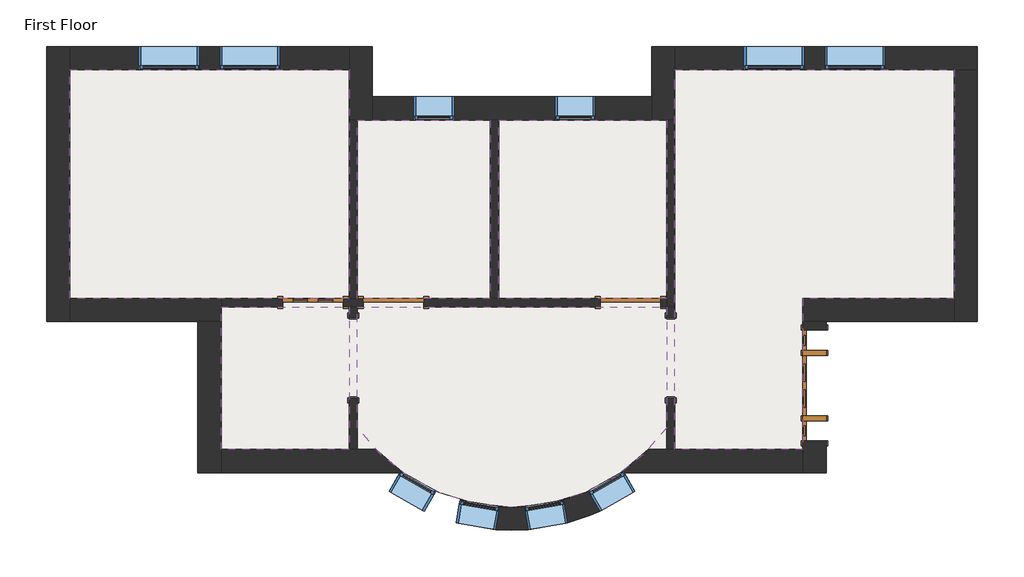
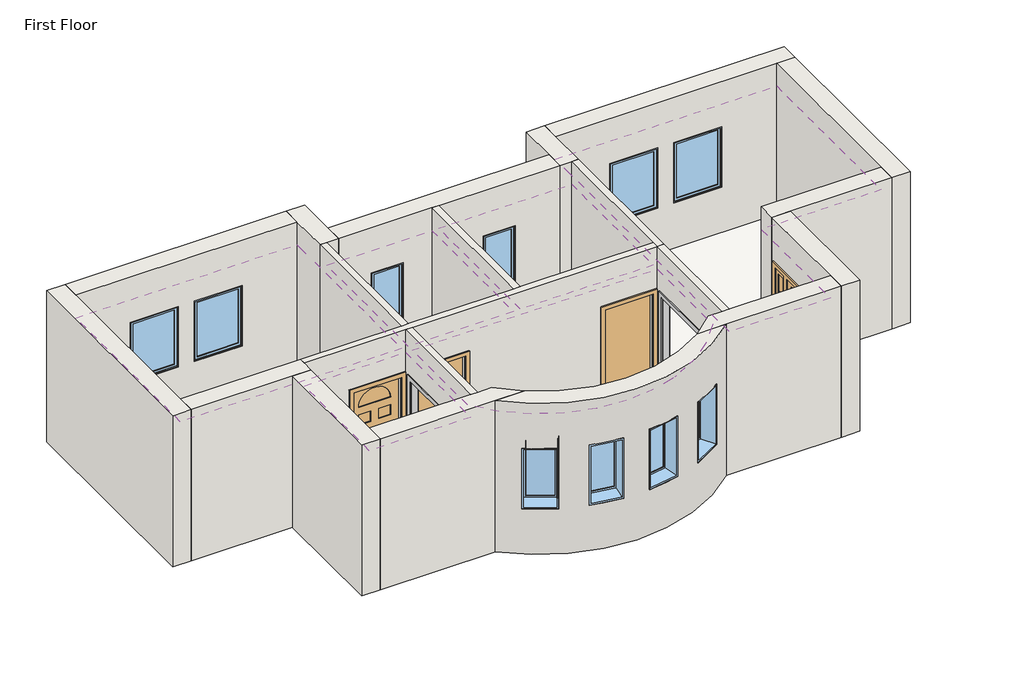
# One storey: 20 walls, 10 windows, 6 coverings, 4 doors, 2 proxies, 1 slab.
"""IFC4 building model written with IfcOpenShell, lengths in millimetres."""

from ifc_helpers import new_model, si_unit, point, frame, frame_2d, origin, origin_with_axes, place, context, project, spatial, polyline, circle_curve, trimmed, segment, composite_curve, outline, extrude, faceted_brep, transform, mapped, element, save
from ifc_brep_helpers import plane_surface, cylinder_surface, revolved_surface, advanced_brep
from components import proxy_f44482cc, door_2e3b4da2, door_a1797ceb, door_a3eb833a, door_dba5aa2e, window_60baf983, window_ed80354a, window_15c49d37

model = new_model("IFC4")

# Units and contexts
model_context = context("Model", 3, world=origin())
ifc_project = project(units=[si_unit("LENGTHUNIT", "METRE", prefix="MILLI")], contexts=[model_context])

# Site, building, storey
site = spatial("IfcSite", under=ifc_project)
building = spatial("IfcBuilding", under=site)
storey = spatial("IfcBuildingStorey", under=building, Name="First Floor", Elevation=0.0)

# Proxies
placement = place(None, origin())
proxy_shape = proxy_f44482cc(model_context)
element("IfcBuildingElementProxy", 1, Name="Opening-Cased : 48\" x 84\"", ObjectType="Opening-Cased : 48\" x 84\"", at=placement, inside=storey, context=model_context, shape_type="MappedRepresentation", body=[
    mapped(proxy_shape, transform((-732.7404149, 8023.3246014, 0.0), x_axis=(0.0, -1.0, 0.0), y_axis=(1.0, 0.0, 0.0), z_axis=(0.0, 0.0, 1.0))),
])
element("IfcBuildingElementProxy", 2, Name="Opening-Cased : 48\" x 84\"", ObjectType="Opening-Cased : 48\" x 84\"", at=placement, inside=storey, context=model_context, shape_type="MappedRepresentation", body=[
    mapped(proxy_shape, transform((4064.6845851, 8039.7019148, 0.0), x_axis=(0.0, 1.0, 0.0), y_axis=(-1.0, 0.0, 0.0), z_axis=(0.0, 0.0, 1.0))),
])

# Coverings
element("IfcCovering", 3, ObjectType="GWB on Mtl. Stud", at=placement, inside=storey, context=model_context, shape_type="SweptSolid", body=[
    extrude(outline(polyline([(-2906.0279149, 8933.2132581), (-5015.8154149, 8933.2132581), (-5015.8154149, 12390.7882581), (-796.2404149, 12390.7882581), (-796.2404149, 11805.0007581), (-796.2404149, 8933.2132581), (-2906.0279149, 8933.2132581)])), frame((0.0, 0.0, 2590.8), z_axis=(0.0, 0.0, 1.0), x_axis=(1.0, 0.0, 0.0)), (0.0, 0.0, 1.0), 107.95),
])
element("IfcCovering", 4, ObjectType="GWB on Mtl. Stud", at=placement, inside=storey, context=model_context, shape_type="SweptSolid", body=[
    extrude(outline(polyline([(-669.2404149, 8933.2132581), (-669.2404149, 11628.7882581), (1337.3595851, 11628.7882581), (1337.3595851, 8933.2132581), (-669.2404149, 8933.2132581)])), frame((0.0, 0.0, 2590.8), z_axis=(0.0, 0.0, 1.0), x_axis=(1.0, 0.0, 0.0)), (0.0, 0.0, 1.0), 107.95),
])
element("IfcCovering", 5, ObjectType="GWB on Mtl. Stud", at=placement, inside=storey, context=model_context, shape_type="SweptSolid", body=[
    extrude(outline(polyline([(1464.3595851, 11628.7882581), (4001.1845851, 11628.7882581), (4001.1845851, 8933.2132581), (1464.3595851, 8933.2132581), (1464.3595851, 11628.7882581)])), frame((0.0, 0.0, 2590.8), z_axis=(0.0, 0.0, 1.0), x_axis=(1.0, 0.0, 0.0)), (0.0, 0.0, 1.0), 107.95),
])
element("IfcCovering", 6, ObjectType="GWB on Mtl. Stud", at=placement, inside=storey, context=model_context, shape_type="SweptSolid", body=[
    extrude(outline(polyline([(8347.7595851, 12390.7882581), (8347.7595851, 8933.2132581), (6061.7595851, 8933.2132581), (6061.7595851, 6647.2132581), (4128.1845851, 6647.2132581), (4128.1845851, 8869.7132581), (4128.1845851, 11805.0007581), (4128.1845851, 12390.7882581), (8347.7595851, 12390.7882581)])), frame((0.0, 0.0, 2590.8), z_axis=(0.0, 0.0, 1.0), x_axis=(1.0, 0.0, 0.0)), (0.0, 0.0, 1.0), 107.95),
])
element("IfcCovering", 7, ObjectType="GWB on Mtl. Stud", at=placement, inside=storey, context=model_context, shape_type="SweptSolid", body=[
    extrude(outline(composite_curve([segment(trimmed(circle_curve(frame_2d((1665.9720851, 8647.7081431)), 2871.7875), [point((4001.1845851, 6976.19804))], [point((-669.2404149, 6976.19804))], False, "CARTESIAN"), True, "CONTINUOUS"), segment(polyline([(-669.2404149, 6976.19804), (-669.2404149, 8806.2132581), (4001.1845851, 8806.2132581), (4001.1845851, 6976.19804)]), True, "CONTINUOUS")], self_intersect=False)), frame((0.0, 0.0, 2590.8), z_axis=(0.0, 0.0, 1.0), x_axis=(1.0, 0.0, 0.0)), (0.0, 0.0, 1.0), 107.95),
])
element("IfcCovering", 8, ObjectType="GWB on Mtl. Stud", at=placement, inside=storey, context=model_context, shape_type="SweptSolid", body=[
    extrude(outline(polyline([(-796.2404149, 6647.2132581), (-2729.8154149, 6647.2132581), (-2729.8154149, 8806.2132581), (-796.2404149, 8806.2132581), (-796.2404149, 6647.2132581)])), frame((0.0, 0.0, 2590.8), z_axis=(0.0, 0.0, 1.0), x_axis=(1.0, 0.0, 0.0)), (0.0, 0.0, 1.0), 107.95),
])

# Doors
door_shape = door_2e3b4da2(model_context)
element("IfcDoor", 9, ObjectType="Single-Decorative 2 : 36\" x 84\"", at=placement, inside=storey, context=model_context, shape_type="MappedRepresentation", body=[
    mapped(door_shape, transform((-1342.3404149, 8869.7132581, 0.0), x_axis=(1.0, 0.0, 0.0), y_axis=(0.0, 1.0, 0.0), z_axis=(0.0, 0.0, 1.0))),
])
door_2_shape = door_a1797ceb(model_context)
element("IfcDoor", 10, ObjectType="Single-Flush : 36\" x 84\"", at=placement, inside=storey, context=model_context, shape_type="MappedRepresentation", body=[
    mapped(door_2_shape, transform((3455.0845851, 8869.7132581, 0.0), x_axis=(1.0, 0.0, 0.0), y_axis=(0.0, 1.0, 0.0), z_axis=(0.0, 0.0, 1.0))),
])
door_3_shape = door_a3eb833a(model_context)
element("IfcDoor", 11, ObjectType="Single-Flush : 36\" x 84\"", at=placement, inside=storey, context=model_context, shape_type="MappedRepresentation", body=[
    mapped(door_3_shape, transform((-123.1404149, 8869.7132581, 0.0), x_axis=(-1.0, 0.0, 0.0), y_axis=(0.0, -1.0, 0.0), z_axis=(0.0, 0.0, 1.0))),
])
door_4_shape = door_dba5aa2e(model_context)
element("IfcDoor", 12, ObjectType="Single-Raised Panel with Sidelights : 36\" x 84\"", at=placement, inside=storey, context=model_context, shape_type="MappedRepresentation", body=[
    mapped(door_4_shape, transform((6237.9720851, 7614.0007581, 0.0), x_axis=(0.0, -1.0, 0.0), y_axis=(1.0, 0.0, 0.0), z_axis=(0.0, 0.0, 1.0))),
])

# Slab
element("IfcSlab", 13, ObjectType="LW Concrete on Metal Deck", at=placement, inside=storey, context=model_context, shape_type="SweptSolid", body=[
    extrude(outline(composite_curve([segment(polyline([(-783.5404149, 12403.4882581), (-783.5404149, 11641.4882581), (4115.4845851, 11641.4882581), (4115.4845851, 12403.4882581), (8360.4595851, 12403.4882581), (8360.4595851, 8920.5132581), (6074.4595851, 8920.5132581), (6074.4595851, 6634.5132581), (3713.949087, 6634.5132581)]), True, "CONTINUOUS"), segment(trimmed(circle_curve(frame_2d((1665.9720851, 8647.7081431)), 2871.7875), [point((3713.949087, 6634.5132581))], [point((-382.0049167, 6634.5132581))], False, "CARTESIAN"), True, "CONTINUOUS"), segment(polyline([(-382.0049167, 6634.5132581), (-2742.5154149, 6634.5132581), (-2742.5154149, 8920.5132581), (-5028.5154149, 8920.5132581), (-5028.5154149, 12403.4882581), (-783.5404149, 12403.4882581)]), True, "CONTINUOUS")], self_intersect=False)), frame((0.0, 0.0, -104.775), z_axis=(0.0, 0.0, 1.0), x_axis=(1.0, 0.0, 0.0)), (0.0, 0.0, 1.0), 104.775),
])

# Walls
element("IfcWall", 14, ObjectType="Exterior - Brick on Mtl. Stud", at=placement, inside=storey, context=model_context, shape_type="Brep", body=[
    faceted_brep([(8347.7595851, 12390.7882581, 0.0), (8347.7595851, 8933.2132581, 0.0), (8347.7595851, 8580.7882581, 0.0), (8347.7595851, 8580.7882581, 3048.0), (8347.7595851, 8933.2132581, 3048.0), (8347.7595851, 12390.7882581, 3048.0), (8700.1845851, 12390.7882581, 0.0), (8700.1845851, 12390.7882581, 3048.0), (8700.1845851, 8580.7882581, 3048.0), (8700.1845851, 8580.7882581, 0.0)], [[[0, 1, 2, 3, 4, 5]], [[6, 7, 8, 9]], [[2, 1, 0, 6, 9]], [[5, 4, 3, 8, 7]], [[3, 2, 9, 8]], [[0, 5, 7, 6]]]),
])
element("IfcWall", 15, ObjectType="Exterior - Brick on Mtl. Stud", at=placement, inside=storey, context=model_context, shape_type="Brep", body=[
    faceted_brep([(8347.7595851, 8933.2132581, 0.0), (6061.7595851, 8933.2132581, 0.0), (6061.7595851, 8933.2132581, 3048.0), (8347.7595851, 8933.2132581, 3048.0), (8347.7595851, 8580.7882581, 0.0), (8347.7595851, 8580.7882581, 3048.0), (6414.1845851, 8580.7882581, 3048.0), (6061.7595851, 8580.7882581, 3048.0), (6061.7595851, 8580.7882581, 0.0), (6414.1845851, 8580.7882581, 0.0)], [[[0, 1, 2, 3]], [[4, 5, 6, 7, 8, 9]], [[1, 0, 4, 9, 8]], [[3, 2, 7, 6, 5]], [[2, 1, 8, 7]], [[0, 3, 5, 4]]]),
])
element("IfcWall", 16, ObjectType="Exterior - Brick on Mtl. Stud", at=placement, inside=storey, context=model_context, shape_type="Brep", body=[
    faceted_brep([(6061.7595851, 6775.8007581, 2133.6), (6061.7595851, 6775.8007581, 0.0), (6061.7595851, 6647.2132581, 0.0), (6061.7595851, 6294.7882581, 0.0), (6061.7595851, 6294.7882581, 3048.0), (6061.7595851, 6647.2132581, 3048.0), (6061.7595851, 8580.7882581, 3048.0), (6061.7595851, 8580.7882581, 0.0), (6061.7595851, 8452.2007581, 0.0), (6061.7595851, 8452.2007581, 2133.6), (6414.1845851, 6294.7882581, 0.0), (6414.1845851, 6775.8007581, 0.0), (6414.1845851, 6775.8007581, 2133.6), (6414.1845851, 8452.2007581, 2133.6), (6414.1845851, 8452.2007581, 0.0), (6414.1845851, 8580.7882581, 0.0), (6414.1845851, 8580.7882581, 3048.0), (6414.1845851, 6294.7882581, 3048.0)], [[[0, 1, 2, 3, 4, 5, 6, 7, 8, 9]], [[10, 11, 12, 13, 14, 15, 16, 17]], [[3, 2, 1, 11, 10]], [[8, 7, 15, 14]], [[6, 5, 4, 17, 16]], [[4, 3, 10, 17]], [[7, 6, 16, 15]], [[12, 11, 1, 0]], [[13, 12, 0, 9]], [[14, 13, 9, 8]]]),
])
element("IfcWall", 17, ObjectType="Exterior - Brick on Mtl. Stud", at=placement, inside=storey, context=model_context, shape_type="AdvancedBrep", body=[
    advanced_brep(
    [(6061.7595851, 6647.2132581, 0.0), (4128.1845851, 6647.2132581, 0.0), (4001.1845851, 6647.2132581, 0.0), (3726.3564328, 6647.2132581, 0.0), (3726.3564328, 6647.2132581, 3048.0), (4001.1845851, 6647.2132581, 3048.0), (4128.1845851, 6647.2132581, 3048.0), (6061.7595851, 6647.2132581, 3048.0), (3312.4627349, 6294.7882581, 0.0), (3870.3573191, 6294.7882581, 0.0), (6061.7595851, 6294.7882581, 0.0), (6061.7595851, 6294.7882581, 3048.0), (3870.3573191, 6294.7882581, 3048.0), (3312.4627349, 6294.7882581, 3048.0), (3312.4627349, 6294.7882581, 2133.6), (3361.7509829, 6294.7882581, 2133.6), (3361.7509829, 6294.7882581, 914.4), (3312.4627349, 6294.7882581, 914.4), (3320.3742367, 6300.3443098, 914.4), (3320.3742367, 6300.3443098, 2133.6), (3349.1702511, 6316.8014694, 914.4), (3349.1702511, 6316.8014694, 2133.6)],
    [
        (0, 1),
        (1, 2),
        (2, 3),
        (3, 4),
        (4, 5),
        (5, 6),
        (6, 7),
        (7, 0),
        (8, 9),
        (9, 10),
        (10, 11),
        (11, 12),
        (12, 13),
        (13, 14),
        (14, 15),
        (15, 16),
        (16, 17),
        (17, 8),
        (0, 10),
        (8, 3, circle_curve(frame((1665.9720851, 8647.7081431, 0.0), z_axis=(0.0, 0.0, 1.0), x_axis=(1.0, 0.0, 0.0)), 2871.7875)),
        (4, 13, circle_curve(frame((1665.9720851, 8647.7081431, 3048.0), z_axis=(0.0, 0.0, -1.0), x_axis=(1.0, 0.0, 0.0)), 2871.7875)),
        (11, 7),
        (17, 18, circle_curve(frame((1665.9720851, 8647.7081431, 914.4), z_axis=(0.0, 0.0, 1.0), x_axis=(1.0, 0.0, 0.0)), 2871.7875)),
        (18, 19),
        (19, 14, circle_curve(frame((1665.9720851, 8647.7081431, 2133.6), z_axis=(0.0, 0.0, -1.0), x_axis=(1.0, 0.0, 0.0)), 2871.7875)),
        (20, 21),
        (21, 19),
        (18, 20),
        (16, 20),
        (15, 21),
    ],
    [
        plane_surface(frame((6237.9720851, 6647.2132581, 0.0), z_axis=(0.0, 1.0, 0.0), x_axis=(-1.0, 0.0, 0.0))),
        plane_surface(frame((6237.9720851, 6294.7882581, 0.0), z_axis=(0.0, -1.0, 0.0), x_axis=(1.0, 0.0, 0.0))),
        plane_surface(frame((6237.9720851, 6647.2132581, 0.0), z_axis=(0.0, 0.0, -1.0), x_axis=(0.0, -1.0, 0.0))),
        plane_surface(frame((3799.5720851, 6647.2132581, 3048.0), z_axis=(0.0, 0.0, 1.0), x_axis=(0.0, -1.0, 0.0))),
        revolved_surface(polyline([(4537.7595851, 8647.7081431, 0.0), (4537.7595851, 8647.7081431, 3048.0)]), (1665.9720851, 8647.7081431, 0.0), (0.0, 0.0, -1.0)),
        plane_surface(frame((6061.7595851, 8757.0007581, 0.0), z_axis=(1.0, 0.0, 0.0), x_axis=(0.0, -1.0, 0.0))),
        plane_surface(frame((2819.9073972, 6014.3233852, 2133.6), z_axis=(0.49619108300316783, -0.8682133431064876, 0.0), x_axis=(0.0, 0.0, 1.0))),
        plane_surface(frame((2993.993531, 5709.7151216, 914.4), z_axis=(0.0, 0.0, 1.0000000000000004), x_axis=(-0.4961910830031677, 0.8682133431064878, 0.0))),
        plane_surface(frame((3523.2563849, 6012.1932058, 914.4), z_axis=(-0.8682133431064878, -0.4961910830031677, 0.0), x_axis=(-0.4961910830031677, 0.8682133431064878, 0.0))),
        plane_surface(frame((3523.2563849, 6012.1932058, 2133.6), z_axis=(0.0, 0.0, -1.0000000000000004), x_axis=(-0.4961910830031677, 0.8682133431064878, 0.0))),
    ],
    [
        (0, [[1, 2, 3, 4, 5, 6, 7, 8]]),
        (1, [[9, 10, 11, 12, 13, 14, 15, 16, 17, 18]]),
        (2, [[-3, -2, -1, 19, -10, -9, 20]]),
        (3, [[-7, -6, -5, 21, -13, -12, 22]]),
        (4, [[-4, -20, -18, 23, 24, 25, -14, -21]]),
        (5, [[-8, -22, -11, -19]]),
        (6, [[26, 27, -24, 28]]),
        (7, [[-28, -23, -17, 29]]),
        (8, [[-26, -29, -16, 30]]),
        (9, [[-27, -30, -15, -25]]),
    ],
),
])
element("IfcWall", 18, ObjectType="Exterior - Brick on Mtl. Stud", at=placement, inside=storey, context=model_context, shape_type="Brep", body=[
    faceted_brep([(-5368.2404149, 12743.2132581, 0.0), (-5368.2404149, 8580.7882581, 0.0), (-5368.2404149, 8580.7882581, 3048.0), (-5368.2404149, 12743.2132581, 3048.0), (-5015.8154149, 12743.2132581, 0.0), (-5015.8154149, 12743.2132581, 3048.0), (-5015.8154149, 12390.7882581, 3048.0), (-5015.8154149, 8933.2132581, 3048.0), (-5015.8154149, 8580.7882581, 3048.0), (-5015.8154149, 8580.7882581, 0.0), (-5015.8154149, 8933.2132581, 0.0), (-5015.8154149, 12390.7882581, 0.0)], [[[0, 1, 2, 3]], [[4, 5, 6, 7, 8, 9, 10, 11]], [[1, 0, 4, 11, 10, 9]], [[3, 2, 8, 7, 6, 5]], [[2, 1, 9, 8]], [[0, 3, 5, 4]]]),
])
element("IfcWall", 19, ObjectType="Exterior - Brick on Mtl. Stud", at=placement, inside=storey, context=model_context, shape_type="Brep", body=[
    faceted_brep([(-5015.8154149, 8580.7882581, 0.0), (-3082.2404149, 8580.7882581, 0.0), (-2729.8154149, 8580.7882581, 0.0), (-2729.8154149, 8580.7882581, 3048.0), (-3082.2404149, 8580.7882581, 3048.0), (-5015.8154149, 8580.7882581, 3048.0), (-5015.8154149, 8933.2132581, 0.0), (-5015.8154149, 8933.2132581, 3048.0), (-2729.8154149, 8933.2132581, 3048.0), (-2729.8154149, 8933.2132581, 0.0), (-2729.8154149, 8806.2132581, 0.0), (-2729.8154149, 8806.2132581, 3048.0)], [[[0, 1, 2, 3, 4, 5]], [[6, 7, 8, 9]], [[2, 1, 0, 6, 9, 10]], [[5, 4, 3, 11, 8, 7]], [[3, 2, 10, 9, 8, 11]], [[0, 5, 7, 6]]]),
])
element("IfcWall", 20, ObjectType="Exterior - Brick on Mtl. Stud", at=placement, inside=storey, context=model_context, shape_type="Brep", body=[
    faceted_brep([(-3082.2404149, 8580.7882581, 0.0), (-3082.2404149, 6294.7882581, 0.0), (-3082.2404149, 6294.7882581, 3048.0), (-3082.2404149, 8580.7882581, 3048.0), (-2729.8154149, 8580.7882581, 0.0), (-2729.8154149, 8580.7882581, 3048.0), (-2729.8154149, 6647.2132581, 3048.0), (-2729.8154149, 6294.7882581, 3048.0), (-2729.8154149, 6294.7882581, 0.0), (-2729.8154149, 6647.2132581, 0.0)], [[[0, 1, 2, 3]], [[4, 5, 6, 7, 8, 9]], [[1, 0, 4, 9, 8]], [[3, 2, 7, 6, 5]], [[2, 1, 8, 7]], [[0, 3, 5, 4]]]),
])
element("IfcWall", 21, ObjectType="Exterior - Brick on Mtl. Stud", at=placement, inside=storey, context=model_context, shape_type="AdvancedBrep", body=[
    advanced_brep(
    [(-2729.8154149, 6294.7882581, 0.0), (-538.4131488, 6294.7882581, 0.0), (19.4814354, 6294.7882581, 0.0), (19.4814354, 6294.7882581, 914.4), (-29.8068126, 6294.7882581, 914.4), (-29.8068126, 6294.7882581, 2133.6), (19.4814354, 6294.7882581, 2133.6), (19.4814354, 6294.7882581, 3048.0), (-538.4131488, 6294.7882581, 3048.0), (-2729.8154149, 6294.7882581, 3048.0), (-394.4122625, 6647.2132581, 0.0), (-669.2404149, 6647.2132581, 0.0), (-796.2404149, 6647.2132581, 0.0), (-2729.8154149, 6647.2132581, 0.0), (-2729.8154149, 6647.2132581, 3048.0), (-796.2404149, 6647.2132581, 3048.0), (-669.2404149, 6647.2132581, 3048.0), (-394.4122625, 6647.2132581, 3048.0), (11.5699336, 6300.3443098, 2133.6), (11.5699336, 6300.3443098, 914.4), (-17.2260808, 6316.8014694, 2133.6), (-17.2260808, 6316.8014694, 914.4)],
    [
        (0, 1),
        (1, 2),
        (2, 3),
        (3, 4),
        (4, 5),
        (5, 6),
        (6, 7),
        (7, 8),
        (8, 9),
        (9, 0),
        (10, 11),
        (11, 12),
        (12, 13),
        (13, 14),
        (14, 15),
        (15, 16),
        (16, 17),
        (17, 10),
        (0, 13),
        (10, 2, circle_curve(frame((1665.9720851, 8647.7081431, 0.0), z_axis=(0.0, 0.0, 1.0), x_axis=(1.0, 0.0, 0.0)), 2871.7875)),
        (7, 17, circle_curve(frame((1665.9720851, 8647.7081431, 3048.0), z_axis=(0.0, 0.0, -1.0), x_axis=(1.0, 0.0, 0.0)), 2871.7875)),
        (14, 9),
        (6, 18, circle_curve(frame((1665.9720851, 8647.7081431, 2133.6), z_axis=(0.0, 0.0, -1.0), x_axis=(1.0, 0.0, 0.0)), 2871.7875)),
        (18, 19),
        (19, 3, circle_curve(frame((1665.9720851, 8647.7081431, 914.4), z_axis=(0.0, 0.0, 1.0), x_axis=(1.0, 0.0, 0.0)), 2871.7875)),
        (20, 21),
        (21, 19),
        (18, 20),
        (21, 4),
        (20, 5),
    ],
    [
        plane_surface(frame((-2906.0279149, 6294.7882581, 0.0), z_axis=(0.0, -1.0, 0.0), x_axis=(1.0, 0.0, 0.0))),
        plane_surface(frame((-2906.0279149, 6647.2132581, 0.0), z_axis=(0.0, 1.0, 0.0), x_axis=(-1.0, 0.0, 0.0))),
        plane_surface(frame((-2906.0279149, 6294.7882581, 0.0), z_axis=(0.0, 0.0, -1.0), x_axis=(0.0, 1.0, 0.0))),
        plane_surface(frame((-467.6279149, 6294.7882581, 3048.0), z_axis=(0.0, 0.0, 1.0), x_axis=(0.0, 1.0, 0.0))),
        revolved_surface(polyline([(4537.7595851, 8647.7081431, 0.0), (4537.7595851, 8647.7081431, 3048.0)]), (1665.9720851, 8647.7081431, 0.0), (0.0, 0.0, -1.0)),
        plane_surface(frame((-2729.8154149, 8757.0007581, 0.0), z_axis=(-1.0, 0.0, 0.0), x_axis=(0.0, 1.0, 0.0))),
        plane_surface(frame((512.0367731, 6014.3233852, 2133.6), z_axis=(-0.4961910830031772, -0.8682133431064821, 0.0), x_axis=(0.0, 0.0, -1.0))),
        plane_surface(frame((512.0367731, 6014.3233852, 914.4), z_axis=(0.0, 0.0, 1.0000000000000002), x_axis=(-0.49619108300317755, -0.8682133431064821, 0.0))),
        plane_surface(frame((-17.2260808, 6316.8014694, 914.4), z_axis=(0.8682133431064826, -0.4961910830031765, 0.0), x_axis=(-0.4961910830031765, -0.8682133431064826, 0.0))),
        plane_surface(frame((-17.2260808, 6316.8014694, 2133.6), z_axis=(0.0, 0.0, -1.0), x_axis=(-0.4961910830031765, -0.8682133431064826, 0.0))),
    ],
    [
        (0, [[1, 2, 3, 4, 5, 6, 7, 8, 9, 10]]),
        (1, [[11, 12, 13, 14, 15, 16, 17, 18]]),
        (2, [[-2, -1, 19, -13, -12, -11, 20]]),
        (3, [[-9, -8, 21, -17, -16, -15, 22]]),
        (4, [[-20, -18, -21, -7, 23, 24, 25, -3]]),
        (5, [[-10, -22, -14, -19]]),
        (6, [[26, 27, -24, 28]]),
        (7, [[-27, 29, -4, -25]]),
        (8, [[-26, 30, -5, -29]]),
        (9, [[-28, -23, -6, -30]]),
    ],
),
])
element("IfcWall", 22, ObjectType="Exterior - Brick on Mtl. Stud", at=placement, inside=storey, context=model_context, shape_type="SweptSolid", body=[
    extrude(outline(polyline([(0.0, -5015.8154149), (0.0, -796.2404149), (3048.0, -796.2404149), (3048.0, -5015.8154149), (0.0, -5015.8154149)]), holes=[polyline([(2133.6, -3972.8279149), (2133.6, -3058.4279149), (914.4, -3058.4279149), (914.4, -3972.8279149), (2133.6, -3972.8279149)]), polyline([(2133.6, -2753.6279149), (2133.6, -1839.2279149), (914.4, -1839.2279149), (914.4, -2753.6279149), (2133.6, -2753.6279149)])]), frame((0.0, 12390.7882581, 0.0), z_axis=(0.0, 1.0, 0.0), x_axis=(0.0, 0.0, 1.0)), (0.0, 0.0, 1.0), 352.425),
])
element("IfcWall", 23, ObjectType="Exterior - Brick on Mtl. Stud", at=placement, inside=storey, context=model_context, shape_type="Brep", body=[
    faceted_brep([(-796.2404149, 12743.2132581, 0.0), (-796.2404149, 12390.7882581, 0.0), (-796.2404149, 11628.7882581, 0.0), (-796.2404149, 11628.7882581, 3048.0), (-796.2404149, 12390.7882581, 3048.0), (-796.2404149, 12743.2132581, 3048.0), (-443.8154149, 12743.2132581, 0.0), (-443.8154149, 12743.2132581, 3048.0), (-443.8154149, 11981.2132581, 3048.0), (-443.8154149, 11628.7882581, 3048.0), (-443.8154149, 11628.7882581, 0.0), (-443.8154149, 11981.2132581, 0.0), (-669.2404149, 11628.7882581, 0.0), (-669.2404149, 11628.7882581, 3048.0)], [[[0, 1, 2, 3, 4, 5]], [[6, 7, 8, 9, 10, 11]], [[2, 1, 0, 6, 11, 10, 12]], [[5, 4, 3, 13, 9, 8, 7]], [[0, 5, 7, 6]], [[3, 2, 12, 10, 9, 13]]]),
])
element("IfcWall", 24, ObjectType="Exterior - Brick on Mtl. Stud", at=placement, inside=storey, context=model_context, shape_type="Brep", body=[
    faceted_brep([(-443.8154149, 11628.7882581, 0.0), (1337.3595851, 11628.7882581, 0.0), (1464.3595851, 11628.7882581, 0.0), (3775.7595851, 11628.7882581, 0.0), (3775.7595851, 11628.7882581, 3048.0), (1464.3595851, 11628.7882581, 3048.0), (1337.3595851, 11628.7882581, 3048.0), (-443.8154149, 11628.7882581, 3048.0), (2315.2595851, 11628.7882581, 2133.6), (2924.8595851, 11628.7882581, 2133.6), (2924.8595851, 11628.7882581, 914.4), (2315.2595851, 11628.7882581, 914.4), (181.6595851, 11628.7882581, 2133.6), (791.2595851, 11628.7882581, 2133.6), (791.2595851, 11628.7882581, 914.4), (181.6595851, 11628.7882581, 914.4), (-443.8154149, 11981.2132581, 0.0), (-443.8154149, 11981.2132581, 3048.0), (3775.7595851, 11981.2132581, 3048.0), (3775.7595851, 11981.2132581, 0.0), (2315.2595851, 11981.2132581, 2133.6), (2315.2595851, 11981.2132581, 914.4), (2924.8595851, 11981.2132581, 914.4), (2924.8595851, 11981.2132581, 2133.6), (181.6595851, 11981.2132581, 2133.6), (181.6595851, 11981.2132581, 914.4), (791.2595851, 11981.2132581, 914.4), (791.2595851, 11981.2132581, 2133.6)], [[[0, 1, 2, 3, 4, 5, 6, 7], [8, 9, 10, 11], [12, 13, 14, 15]], [[16, 17, 18, 19], [20, 21, 22, 23], [24, 25, 26, 27]], [[3, 2, 1, 0, 16, 19]], [[7, 6, 5, 4, 18, 17]], [[0, 7, 17, 16]], [[4, 3, 19, 18]], [[21, 20, 8, 11]], [[22, 21, 11, 10]], [[23, 22, 10, 9]], [[20, 23, 9, 8]], [[25, 24, 12, 15]], [[26, 25, 15, 14]], [[27, 26, 14, 13]], [[24, 27, 13, 12]]]),
])
element("IfcWall", 25, ObjectType="Exterior - Brick on Mtl. Stud", at=placement, inside=storey, context=model_context, shape_type="Brep", body=[
    faceted_brep([(4128.1845851, 11628.7882581, 0.0), (4128.1845851, 12390.7882581, 0.0), (4128.1845851, 12743.2132581, 0.0), (4128.1845851, 12743.2132581, 3048.0), (4128.1845851, 12390.7882581, 3048.0), (4128.1845851, 11628.7882581, 3048.0), (3775.7595851, 11628.7882581, 0.0), (3775.7595851, 11628.7882581, 3048.0), (3775.7595851, 11981.2132581, 3048.0), (3775.7595851, 12743.2132581, 3048.0), (3775.7595851, 12743.2132581, 0.0), (3775.7595851, 11981.2132581, 0.0), (4001.1845851, 11628.7882581, 0.0), (4001.1845851, 11628.7882581, 3048.0)], [[[0, 1, 2, 3, 4, 5]], [[6, 7, 8, 9, 10, 11]], [[2, 1, 0, 12, 6, 11, 10]], [[5, 4, 3, 9, 8, 7, 13]], [[0, 5, 13, 7, 6, 12]], [[3, 2, 10, 9]]]),
])
element("IfcWall", 26, ObjectType="Exterior - Brick on Mtl. Stud", at=placement, inside=storey, context=model_context, shape_type="Brep", body=[
    faceted_brep([(4128.1845851, 12390.7882581, 0.0), (8347.7595851, 12390.7882581, 0.0), (8700.1845851, 12390.7882581, 0.0), (8700.1845851, 12390.7882581, 3048.0), (8347.7595851, 12390.7882581, 3048.0), (4128.1845851, 12390.7882581, 3048.0), (6390.3720851, 12390.7882581, 2133.6), (7304.7720851, 12390.7882581, 2133.6), (7304.7720851, 12390.7882581, 914.4), (6390.3720851, 12390.7882581, 914.4), (5171.1720851, 12390.7882581, 2133.6), (6085.5720851, 12390.7882581, 2133.6), (6085.5720851, 12390.7882581, 914.4), (5171.1720851, 12390.7882581, 914.4), (4128.1845851, 12743.2132581, 0.0), (4128.1845851, 12743.2132581, 3048.0), (8700.1845851, 12743.2132581, 3048.0), (8700.1845851, 12743.2132581, 0.0), (6390.3720851, 12743.2132581, 2133.6), (6390.3720851, 12743.2132581, 914.4), (7304.7720851, 12743.2132581, 914.4), (7304.7720851, 12743.2132581, 2133.6), (5171.1720851, 12743.2132581, 2133.6), (5171.1720851, 12743.2132581, 914.4), (6085.5720851, 12743.2132581, 914.4), (6085.5720851, 12743.2132581, 2133.6)], [[[0, 1, 2, 3, 4, 5], [6, 7, 8, 9], [10, 11, 12, 13]], [[14, 15, 16, 17], [18, 19, 20, 21], [22, 23, 24, 25]], [[2, 1, 0, 14, 17]], [[5, 4, 3, 16, 15]], [[3, 2, 17, 16]], [[0, 5, 15, 14]], [[19, 18, 6, 9]], [[20, 19, 9, 8]], [[21, 20, 8, 7]], [[18, 21, 7, 6]], [[23, 22, 10, 13]], [[24, 23, 13, 12]], [[25, 24, 12, 11]], [[22, 25, 11, 10]]]),
])
element("IfcWall", 27, ObjectType="Exterior - Brick on Mtl. Stud", at=placement, inside=storey, context=model_context, shape_type="AdvancedBrep", body=[
    advanced_brep(
    [(3312.4627349, 6294.7882581, 3048.0), (19.4814354, 6294.7882581, 3048.0), (-538.4131488, 6294.7882581, 3048.0), (3870.3573191, 6294.7882581, 3048.0), (19.4814354, 6294.7882581, 0.0), (3312.4627349, 6294.7882581, 0.0), (3870.3573191, 6294.7882581, 0.0), (-538.4131488, 6294.7882581, 0.0), (3312.4627349, 6294.7882581, 2133.6), (2818.2473245, 6017.2281075, 2133.6), (2818.2473245, 6017.2281075, 914.4), (3312.4627349, 6294.7882581, 914.4), (19.4814354, 6294.7882581, 914.4), (513.6968458, 6017.2281075, 914.4), (513.6968458, 6017.2281075, 2133.6), (19.4814354, 6294.7882581, 2133.6), (1481.667639, 5781.8408545, 914.4), (1481.667639, 5781.8408545, 2133.6), (880.9128086, 5885.3096604, 2133.6), (880.9128086, 5885.3096604, 914.4), (1850.2765313, 5781.8408545, 2133.6), (1850.2765313, 5781.8408545, 914.4), (2451.0313617, 5885.3096604, 914.4), (2451.0313617, 5885.3096604, 2133.6), (337.9427329, 5709.7012873, 2133.6), (337.9427329, 5709.7012873, 914.4), (-191.320121, 6012.1793715, 914.4), (-191.320121, 6012.1793715, 2133.6), (1421.5473554, 5432.7738053, 2133.6), (1421.5473554, 5432.7738053, 914.4), (820.792525, 5536.2426112, 914.4), (820.792525, 5536.2426112, 2133.6), (2994.0014374, 5709.7012873, 914.4), (2994.0014374, 5709.7012873, 2133.6), (3523.2642913, 6012.1793715, 2133.6), (3523.2642913, 6012.1793715, 914.4), (1910.3968149, 5432.7738053, 2133.6), (2511.1516453, 5536.2426112, 2133.6), (2511.1516453, 5536.2426112, 914.4), (1910.3968149, 5432.7738053, 914.4), (3361.7509829, 6294.7882581, 914.4), (3361.7509829, 6294.7882581, 2133.6), (-29.8068126, 6294.7882581, 2133.6), (-29.8068126, 6294.7882581, 914.4)],
    [
        (0, 1, circle_curve(frame((1665.9720851, 8647.7081431, 3048.0), z_axis=(0.0, 0.0, -1.0), x_axis=(1.0, 0.0, 0.0)), 2871.7875)),
        (1, 2),
        (2, 3, circle_curve(frame((1665.9720851, 8647.7081431, 3048.0), z_axis=(0.0, 0.0, 1.0), x_axis=(1.0, 0.0, 0.0)), 3224.2125)),
        (3, 0),
        (4, 5, circle_curve(frame((1665.9720851, 8647.7081431, 0.0), z_axis=(0.0, 0.0, 1.0), x_axis=(1.0, 0.0, 0.0)), 2871.7875)),
        (5, 6),
        (6, 7, circle_curve(frame((1665.9720851, 8647.7081431, 0.0), z_axis=(0.0, 0.0, -1.0), x_axis=(1.0, 0.0, 0.0)), 3224.2125)),
        (7, 4),
        (0, 8),
        (8, 9, circle_curve(frame((1665.9720851, 8647.7081431, 2133.6), z_axis=(0.0, 0.0, -1.0), x_axis=(1.0, 0.0, 0.0)), 2871.7875)),
        (9, 10),
        (10, 11, circle_curve(frame((1665.9720851, 8647.7081431, 914.4), z_axis=(0.0, 0.0, 1.0), x_axis=(1.0, 0.0, 0.0)), 2871.7875)),
        (11, 5),
        (4, 12),
        (12, 13, circle_curve(frame((1665.9720851, 8647.7081431, 914.4), z_axis=(0.0, 0.0, 1.0), x_axis=(1.0, 0.0, 0.0)), 2871.7875)),
        (13, 14),
        (14, 15, circle_curve(frame((1665.9720851, 8647.7081431, 2133.6), z_axis=(0.0, 0.0, -1.0), x_axis=(1.0, 0.0, 0.0)), 2871.7875)),
        (15, 1),
        (16, 17),
        (17, 18, circle_curve(frame((1665.9720851, 8647.7081431, 2133.6), z_axis=(0.0, 0.0, -1.0), x_axis=(1.0, 0.0, 0.0)), 2871.7875)),
        (18, 19),
        (19, 16, circle_curve(frame((1665.9720851, 8647.7081431, 914.4), z_axis=(0.0, 0.0, 1.0), x_axis=(1.0, 0.0, 0.0)), 2871.7875)),
        (20, 21),
        (21, 22, circle_curve(frame((1665.9720851, 8647.7081431, 914.4), z_axis=(0.0, 0.0, 1.0), x_axis=(1.0, 0.0, 0.0)), 2871.7875)),
        (22, 23),
        (23, 20, circle_curve(frame((1665.9720851, 8647.7081431, 2133.6), z_axis=(0.0, 0.0, -1.0), x_axis=(1.0, 0.0, 0.0)), 2871.7875)),
        (2, 7),
        (6, 3),
        (24, 25),
        (25, 26, circle_curve(frame((1665.9720851, 8647.7081431, 914.4), z_axis=(0.0, 0.0, -1.0), x_axis=(1.0, 0.0, 0.0)), 3224.2125)),
        (26, 27),
        (27, 24, circle_curve(frame((1665.9720851, 8647.7081431, 2133.6), z_axis=(0.0, 0.0, 1.0), x_axis=(1.0, 0.0, 0.0)), 3224.2125)),
        (28, 29),
        (29, 30, circle_curve(frame((1665.9720851, 8647.7081431, 914.4), z_axis=(0.0, 0.0, -1.0), x_axis=(1.0, 0.0, 0.0)), 3224.2125)),
        (30, 31),
        (31, 28, circle_curve(frame((1665.9720851, 8647.7081431, 2133.6), z_axis=(0.0, 0.0, 1.0), x_axis=(1.0, 0.0, 0.0)), 3224.2125)),
        (32, 33),
        (33, 34, circle_curve(frame((1665.9720851, 8647.7081431, 2133.6), z_axis=(0.0, 0.0, 1.0), x_axis=(1.0, 0.0, 0.0)), 3224.2125)),
        (34, 35),
        (35, 32, circle_curve(frame((1665.9720851, 8647.7081431, 914.4), z_axis=(0.0, 0.0, -1.0), x_axis=(1.0, 0.0, 0.0)), 3224.2125)),
        (36, 37, circle_curve(frame((1665.9720851, 8647.7081431, 2133.6), z_axis=(0.0, 0.0, 1.0), x_axis=(1.0, 0.0, 0.0)), 3224.2125)),
        (37, 38),
        (38, 39, circle_curve(frame((1665.9720851, 8647.7081431, 914.4), z_axis=(0.0, 0.0, -1.0), x_axis=(1.0, 0.0, 0.0)), 3224.2125)),
        (39, 36),
        (11, 40),
        (40, 41),
        (41, 8),
        (15, 42),
        (42, 43),
        (43, 12),
        (24, 14),
        (13, 25),
        (43, 26),
        (42, 27),
        (28, 17),
        (16, 29),
        (19, 30),
        (18, 31),
        (9, 33),
        (32, 10),
        (35, 40),
        (34, 41),
        (20, 36),
        (39, 21),
        (38, 22),
        (37, 23),
    ],
    [
        plane_surface(frame((4537.7595851, 8647.7081431, 3048.0), z_axis=(0.0, 0.0, 1.0), x_axis=(0.0, -1.0, 0.0))),
        plane_surface(frame((4537.7595851, 8647.7081431, 0.0), z_axis=(0.0, 0.0, -1.0), x_axis=(0.0, 1.0, 0.0))),
        revolved_surface(polyline([(4537.7595851, 8647.7081431, 0.0), (4537.7595851, 8647.7081431, 3048.0)]), (1665.9720851, 8647.7081431, 0.0), (0.0, 0.0, -1.0)),
        cylinder_surface(frame((1665.9720851, 8647.7081431, 0.0), z_axis=(0.0, 0.0, 1.0), x_axis=(1.0, 0.0, 0.0)), 3224.2125),
        plane_surface(frame((6237.9720851, 6294.7882581, 0.0), z_axis=(0.0, 1.0, 0.0), x_axis=(1.0, 0.0, 0.0))),
        plane_surface(frame((-2906.0279149, 6294.7882581, 0.0), z_axis=(0.0, 1.0, 0.0), x_axis=(1.0, 0.0, 0.0))),
        plane_surface(frame((1095.0219139, 7034.4051549, 2133.6), z_axis=(-0.8682133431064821, 0.49619108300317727, 0.0), x_axis=(-0.49619108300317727, -0.8682133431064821, 0.0))),
        plane_surface(frame((1095.0219139, 7034.4051549, 914.4), z_axis=(0.0, 0.0, 1.0), x_axis=(-0.4961910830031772, -0.8682133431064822, 0.0))),
        plane_surface(frame((565.7590599, 7336.8832391, 914.4), z_axis=(0.8682133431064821, -0.4961910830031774, 0.0), x_axis=(-0.4961910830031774, -0.8682133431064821, 0.0))),
        plane_surface(frame((565.7590599, 7336.8832391, 2133.6), z_axis=(0.0, 0.0, -1.0), x_axis=(-0.4961910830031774, -0.8682133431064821, 0.0))),
        plane_surface(frame((1421.5473554, 5432.7738053, 2133.6), z_axis=(-0.9854902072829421, 0.16973229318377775, 0.0), x_axis=(0.16973229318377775, 0.9854902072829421, 0.0))),
        plane_surface(frame((1421.5473554, 5432.7738053, 914.4), z_axis=(0.0, 0.0, 1.0), x_axis=(0.16973229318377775, 0.9854902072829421, 0.0))),
        plane_surface(frame((820.792525, 5536.2426112, 914.4), z_axis=(0.9854902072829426, -0.16973229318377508, 0.0), x_axis=(0.16973229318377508, 0.9854902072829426, 0.0))),
        plane_surface(frame((820.792525, 5536.2426112, 2133.6), z_axis=(0.0, 0.0, -1.0), x_axis=(0.16973229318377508, 0.9854902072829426, 0.0))),
        plane_surface(frame((3749.3126774, 4388.0908851, 2133.6), z_axis=(0.8682133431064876, 0.4961910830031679, 0.0), x_axis=(-0.4961910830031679, 0.8682133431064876, 0.0))),
        plane_surface(frame((3749.3126774, 4388.0908851, 914.4), z_axis=(0.0, 0.0, 1.0000000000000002), x_axis=(-0.4961910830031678, 0.8682133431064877, 0.0))),
        plane_surface(frame((4278.5755314, 4690.5689693, 914.4), z_axis=(-0.8682133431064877, -0.4961910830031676, 0.0), x_axis=(-0.4961910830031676, 0.8682133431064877, 0.0))),
        plane_surface(frame((4278.5755314, 4690.5689693, 2133.6), z_axis=(0.0, 0.0, -1.0), x_axis=(-0.4961910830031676, 0.8682133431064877, 0.0))),
        plane_surface(frame((1850.2765313, 5781.8408545, 2133.6), z_axis=(0.9854902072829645, 0.1697322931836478, 0.0), x_axis=(0.1697322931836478, -0.9854902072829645, 0.0))),
        plane_surface(frame((1850.2765313, 5781.8408545, 914.4), z_axis=(0.0, 0.0, 1.0000000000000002), x_axis=(0.1697322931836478, -0.9854902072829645, 0.0))),
        plane_surface(frame((2451.0313617, 5885.3096604, 914.4), z_axis=(-0.9854902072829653, -0.16973229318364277, 0.0), x_axis=(0.16973229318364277, -0.9854902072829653, 0.0))),
        plane_surface(frame((2451.0313617, 5885.3096604, 2133.6), z_axis=(0.0, 0.0, -1.0), x_axis=(0.16973229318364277, -0.9854902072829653, 0.0))),
    ],
    [
        (0, [[1, 2, 3, 4]]),
        (1, [[5, 6, 7, 8]]),
        (2, [[-1, 9, 10, 11, 12, 13, -5, 14, 15, 16, 17, 18], [19, 20, 21, 22], [23, 24, 25, 26]]),
        (3, [[-3, 27, -7, 28], [29, 30, 31, 32], [33, 34, 35, 36], [37, 38, 39, 40], [41, 42, 43, 44]]),
        (4, [[-4, -28, -6, -13, 45, 46, 47, -9]]),
        (5, [[-2, -18, 48, 49, 50, -14, -8, -27]]),
        (6, [[51, -16, 52, -29]]),
        (7, [[-52, -15, -50, 53, -30]]),
        (8, [[-53, -49, 54, -31]]),
        (9, [[-51, -32, -54, -48, -17]]),
        (10, [[-33, 55, -19, 56]]),
        (11, [[-34, -56, -22, 57]]),
        (12, [[-35, -57, -21, 58]]),
        (13, [[-36, -58, -20, -55]]),
        (14, [[59, -37, 60, -11]]),
        (15, [[-60, -40, 61, -45, -12]]),
        (16, [[-61, -39, 62, -46]]),
        (17, [[-59, -10, -47, -62, -38]]),
        (18, [[-23, 63, -44, 64]]),
        (19, [[-24, -64, -43, 65]]),
        (20, [[-25, -65, -42, 66]]),
        (21, [[-26, -66, -41, -63]]),
    ],
),
])
element("IfcWall", 28, ObjectType="Interior - 5\" Partition (2-hr)", at=placement, inside=storey, context=model_context, shape_type="Brep", body=[
    faceted_brep([(4001.1845851, 11628.7882581, 0.0), (4001.1845851, 8933.2132581, 0.0), (4001.1845851, 8806.2132581, 0.0), (4001.1845851, 8806.2132581, 3048.0), (4001.1845851, 8933.2132581, 3048.0), (4001.1845851, 11628.7882581, 3048.0), (4128.1845851, 11628.7882581, 0.0), (4128.1845851, 11628.7882581, 3048.0), (4128.1845851, 8806.2132581, 3048.0), (4128.1845851, 8806.2132581, 0.0)], [[[0, 1, 2, 3, 4, 5]], [[6, 7, 8, 9]], [[2, 1, 0, 6, 9]], [[5, 4, 3, 8, 7]], [[3, 2, 9, 8]], [[0, 5, 7, 6]]]),
])
element("IfcWall", 29, ObjectType="Interior - 5\" Partition (2-hr)", at=placement, inside=storey, context=model_context, shape_type="Brep", body=[
    faceted_brep([(-885.1404149, 8806.2132581, 2133.6), (-885.1404149, 8806.2132581, 0.0), (-796.2404149, 8806.2132581, 0.0), (-669.2404149, 8806.2132581, 0.0), (-580.3404149, 8806.2132581, 0.0), (-580.3404149, 8806.2132581, 2133.6), (334.0595851, 8806.2132581, 2133.6), (334.0595851, 8806.2132581, 0.0), (2997.8845851, 8806.2132581, 0.0), (2997.8845851, 8806.2132581, 2133.6), (3912.2845851, 8806.2132581, 2133.6), (3912.2845851, 8806.2132581, 0.0), (4001.1845851, 8806.2132581, 0.0), (4001.1845851, 8806.2132581, 3048.0), (-669.2404149, 8806.2132581, 3048.0), (-796.2404149, 8806.2132581, 3048.0), (-2729.8154149, 8806.2132581, 3048.0), (-2729.8154149, 8806.2132581, 0.0), (-1799.5404149, 8806.2132581, 0.0), (-1799.5404149, 8806.2132581, 2133.6), (-580.3404149, 8933.2132581, 0.0), (-669.2404149, 8933.2132581, 0.0), (-796.2404149, 8933.2132581, 0.0), (-885.1404149, 8933.2132581, 0.0), (-885.1404149, 8933.2132581, 2133.6), (-1799.5404149, 8933.2132581, 2133.6), (-1799.5404149, 8933.2132581, 0.0), (-2729.8154149, 8933.2132581, 0.0), (-2729.8154149, 8933.2132581, 3048.0), (-796.2404149, 8933.2132581, 3048.0), (-669.2404149, 8933.2132581, 3048.0), (1337.3595851, 8933.2132581, 3048.0), (1464.3595851, 8933.2132581, 3048.0), (4001.1845851, 8933.2132581, 3048.0), (4001.1845851, 8933.2132581, 0.0), (3912.2845851, 8933.2132581, 0.0), (3912.2845851, 8933.2132581, 2133.6), (2997.8845851, 8933.2132581, 2133.6), (2997.8845851, 8933.2132581, 0.0), (1464.3595851, 8933.2132581, 0.0), (1337.3595851, 8933.2132581, 0.0), (334.0595851, 8933.2132581, 0.0), (334.0595851, 8933.2132581, 2133.6), (-580.3404149, 8933.2132581, 2133.6)], [[[0, 1, 2, 3, 4, 5, 6, 7, 8, 9, 10, 11, 12, 13, 14, 15, 16, 17, 18, 19]], [[20, 21, 22, 23, 24, 25, 26, 27, 28, 29, 30, 31, 32, 33, 34, 35, 36, 37, 38, 39, 40, 41, 42, 43]], [[12, 11, 35, 34]], [[4, 3, 2, 1, 23, 22, 21, 20]], [[41, 40, 39, 38, 8, 7]], [[18, 17, 27, 26]], [[16, 15, 14, 13, 33, 32, 31, 30, 29, 28]], [[17, 16, 28, 27]], [[13, 12, 34, 33]], [[36, 35, 11, 10]], [[37, 36, 10, 9]], [[38, 37, 9, 8]], [[5, 4, 20, 43]], [[6, 5, 43, 42]], [[7, 6, 42, 41]], [[24, 23, 1, 0]], [[25, 24, 0, 19]], [[26, 25, 19, 18]]]),
])
element("IfcWall", 30, ObjectType="Interior - 5\" Partition (2-hr)", at=placement, inside=storey, context=model_context, shape_type="SweptSolid", body=[
    extrude(outline(polyline([(-796.2404149, 8933.2132581), (-796.2404149, 11628.7882581), (-669.2404149, 11628.7882581), (-669.2404149, 8933.2132581), (-796.2404149, 8933.2132581)])), origin_with_axes(), (0.0, 0.0, 1.0), 3048.0),
])
element("IfcWall", 31, ObjectType="Interior - 5\" Partition (2-hr)", at=placement, inside=storey, context=model_context, shape_type="SweptSolid", body=[
    extrude(outline(polyline([(1464.3595851, 11628.7882581), (1464.3595851, 8933.2132581), (1337.3595851, 8933.2132581), (1337.3595851, 11628.7882581), (1464.3595851, 11628.7882581)])), origin_with_axes(), (0.0, 0.0, 1.0), 3048.0),
])
element("IfcWall", 32, ObjectType="Interior - 5\" Partition (2-hr)", at=placement, inside=storey, context=model_context, shape_type="SweptSolid", body=[
    extrude(outline(polyline([(7421.9132581, 2133.6), (7421.9132581, 0.0), (6647.2132581, 0.0), (6647.2132581, 3048.0), (8806.2132581, 3048.0), (8806.2132581, 0.0), (8641.1132581, 0.0), (8641.1132581, 2133.6), (7421.9132581, 2133.6)])), frame((-796.2404149, 0.0, 0.0), z_axis=(1.0, 0.0, 0.0), x_axis=(0.0, 1.0, 0.0)), (0.0, 0.0, 1.0), 127.0),
])
element("IfcWall", 33, ObjectType="Interior - 5\" Partition (2-hr)", at=placement, inside=storey, context=model_context, shape_type="SweptSolid", body=[
    extrude(outline(polyline([(8806.2132581, 0.0), (8641.1132581, 0.0), (8641.1132581, 2133.6), (7421.9132581, 2133.6), (7421.9132581, 0.0), (6647.2132581, 0.0), (6647.2132581, 3048.0), (8806.2132581, 3048.0), (8806.2132581, 0.0)])), frame((4001.1845851, 0.0, 0.0), z_axis=(1.0, 0.0, 0.0), x_axis=(0.0, 1.0, 0.0)), (0.0, 0.0, 1.0), 127.0),
])

# Windows
window_shape = window_60baf983(model_context)
element("IfcWindow", 34, ObjectType="Fixed : 24\" x 48\"", at=placement, inside=storey, context=model_context, shape_type="MappedRepresentation", body=[
    mapped(window_shape, transform((2581.9595851, 11805.0007581, 0.0), x_axis=(-0.9999999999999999, 0.0, 0.0), y_axis=(0.0, -0.9999999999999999, 0.0), z_axis=(0.0, 0.0, 1.0))),
])
element("IfcWindow", 35, ObjectType="Fixed : 24\" x 48\"", at=placement, inside=storey, context=model_context, shape_type="MappedRepresentation", body=[
    mapped(window_shape, transform((448.3595851, 11805.0007581, 0.0), x_axis=(-0.9999999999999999, 0.0, 0.0), y_axis=(0.0, -0.9999999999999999, 0.0), z_axis=(0.0, 0.0, 1.0))),
])
element("IfcWindow", 36, ObjectType="Fixed : 24\" x 48\"", at=placement, inside=storey, context=model_context, shape_type="MappedRepresentation", body=[
    mapped(window_shape, transform((194.709276, 5996.5722256, 0.0), x_axis=(0.8682133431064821, -0.4961910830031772, 0.0), y_axis=(0.4961910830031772, 0.8682133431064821, 0.0), z_axis=(0.0, 0.0, 1.0))),
])
element("IfcWindow", 37, ObjectType="Fixed : 24\" x 48\"", at=placement, inside=storey, context=model_context, shape_type="MappedRepresentation", body=[
    mapped(window_shape, transform((1188.928449, 5653.4527639, 0.0), x_axis=(0.9854902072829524, -0.16973229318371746, 0.0), y_axis=(0.16973229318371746, 0.9854902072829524, 0.0), z_axis=(0.0, 0.0, 1.0))),
])
window_2_shape = window_ed80354a(model_context)
element("IfcWindow", 38, ObjectType="Fixed : 24\" x 48\"", at=placement, inside=storey, context=model_context, shape_type="MappedRepresentation", body=[
    mapped(window_2_shape, transform((3137.2348943, 5996.5722256, 0.0), x_axis=(-0.8682133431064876, -0.49619108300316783, 0.0), y_axis=(0.49619108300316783, -0.8682133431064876, 0.0), z_axis=(0.0, 0.0, 1.0))),
])
element("IfcWindow", 39, ObjectType="Fixed : 24\" x 48\"", at=placement, inside=storey, context=model_context, shape_type="MappedRepresentation", body=[
    mapped(window_2_shape, transform((2143.0157213, 5653.4527639, 0.0), x_axis=(-0.9854902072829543, -0.1697322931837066, 0.0), y_axis=(0.1697322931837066, -0.9854902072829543, 0.0), z_axis=(0.0, 0.0, 1.0))),
])
window_3_shape = window_15c49d37(model_context)
element("IfcWindow", 40, ObjectType="Fixed : 36\" x 48\"", at=placement, inside=storey, context=model_context, shape_type="MappedRepresentation", body=[
    mapped(window_3_shape, transform((-3553.7279149, 12567.0007581, 0.0), x_axis=(-1.0, 0.0, 0.0), y_axis=(0.0, -1.0, 0.0), z_axis=(0.0, 0.0, 1.0))),
])
element("IfcWindow", 41, ObjectType="Fixed : 36\" x 48\"", at=placement, inside=storey, context=model_context, shape_type="MappedRepresentation", body=[
    mapped(window_3_shape, transform((-2334.5279149, 12567.0007581, 0.0), x_axis=(-1.0, 0.0, 0.0), y_axis=(0.0, -1.0, 0.0), z_axis=(0.0, 0.0, 1.0))),
])
element("IfcWindow", 42, ObjectType="Fixed : 36\" x 48\"", at=placement, inside=storey, context=model_context, shape_type="MappedRepresentation", body=[
    mapped(window_3_shape, transform((6809.4720851, 12567.0007581, 0.0), x_axis=(-1.0, 0.0, 0.0), y_axis=(0.0, -1.0, 0.0), z_axis=(0.0, 0.0, 1.0))),
])
element("IfcWindow", 43, ObjectType="Fixed : 36\" x 48\"", at=placement, inside=storey, context=model_context, shape_type="MappedRepresentation", body=[
    mapped(window_3_shape, transform((5590.2720851, 12567.0007581, 0.0), x_axis=(-1.0, 0.0, 0.0), y_axis=(0.0, -1.0, 0.0), z_axis=(0.0, 0.0, 1.0))),
])

save(model, "model.ifc")
